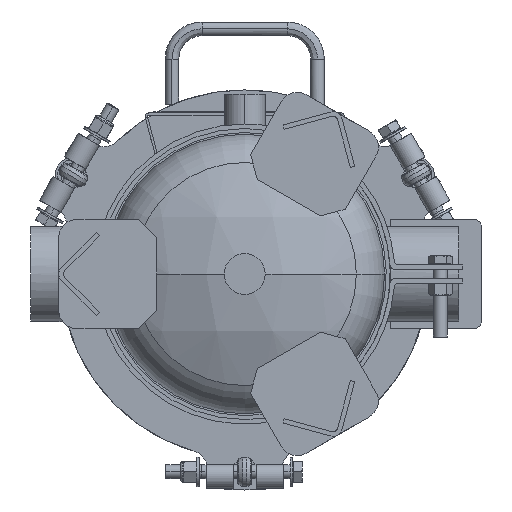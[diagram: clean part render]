
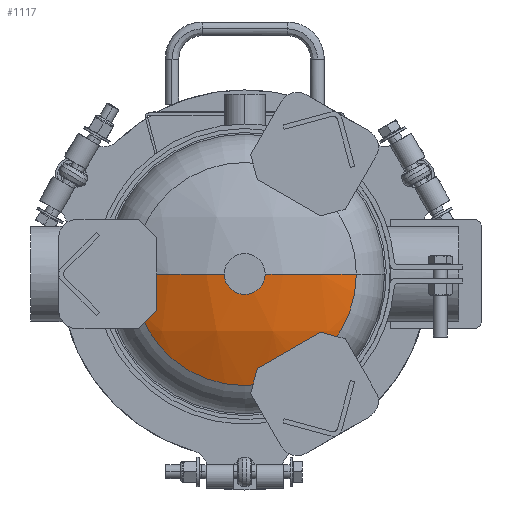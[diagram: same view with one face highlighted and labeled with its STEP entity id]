
A CAD part, front view. The second image highlights one B-rep face of the part: STEP entity #1117.
In plain terms, the highlighted spherical face has radius 174.149 mm.
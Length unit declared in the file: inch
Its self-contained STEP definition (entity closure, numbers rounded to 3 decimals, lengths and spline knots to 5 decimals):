
#575 = VERTEX_POINT ( 'NONE', #3007 ) ;
#775 = AXIS2_PLACEMENT_3D ( 'NONE', #12557, #1579, #18522 ) ;
#977 = AXIS2_PLACEMENT_3D ( 'NONE', #12796, #1813, #19029 ) ;
#1117 = ADVANCED_FACE ( 'NONE', ( #12406 ), #20615, .T. ) ;
#1575 = CARTESIAN_POINT ( 'NONE',  ( 0., -37.5077, 0. ) ) ;
#1579 = DIRECTION ( 'NONE',  ( 0., 0., -1. ) ) ;
#1813 = DIRECTION ( 'NONE',  ( 0., 0., -1. ) ) ;
#1831 = CARTESIAN_POINT ( 'NONE',  ( 3.06649, -37.5077, 0. ) ) ;
#2503 = ORIENTED_EDGE ( 'NONE', *, *, #19244, .T. ) ;
#3007 = CARTESIAN_POINT ( 'NONE',  ( 0., -38.23167, 0. ) ) ;
#5133 = AXIS2_PLACEMENT_3D ( 'NONE', #1575, #27123, #26588 ) ;
#5776 = CARTESIAN_POINT ( 'NONE',  ( -3.06649, -37.5077, 0. ) ) ;
#5984 = VERTEX_POINT ( 'NONE', #5776 ) ;
#6145 = EDGE_LOOP ( 'NONE', ( #24064, #2503, #10466 ) ) ;
#6483 = AXIS2_PLACEMENT_3D ( 'NONE', #12276, #20456, #14217 ) ;
#10466 = ORIENTED_EDGE ( 'NONE', *, *, #27262, .F. ) ;
#12276 = CARTESIAN_POINT ( 'NONE',  ( 0., -31.37541, 0. ) ) ;
#12406 = FACE_OUTER_BOUND ( 'NONE', #6145, .T. ) ;
#12557 = CARTESIAN_POINT ( 'NONE',  ( 0., -31.37541, 0. ) ) ;
#12796 = CARTESIAN_POINT ( 'NONE',  ( 0., -31.37541, 0. ) ) ;
#14217 = DIRECTION ( 'NONE',  ( 1., 0., 0. ) ) ;
#14912 = CIRCLE ( 'NONE', #5133, 3.06649 ) ;
#18522 = DIRECTION ( 'NONE',  ( -1., 0., 0. ) ) ;
#19029 = DIRECTION ( 'NONE',  ( -1., 0., 0. ) ) ;
#19244 = EDGE_CURVE ( 'NONE', #26464, #575, #27160, .T. ) ;
#20456 = DIRECTION ( 'NONE',  ( 0., 0., 1. ) ) ;
#20615 = SPHERICAL_SURFACE ( 'NONE', #775, 6.85626 ) ;
#24064 = ORIENTED_EDGE ( 'NONE', *, *, #27274, .T. ) ;
#25553 = CIRCLE ( 'NONE', #6483, 6.85626 ) ;
#26464 = VERTEX_POINT ( 'NONE', #1831 ) ;
#26588 = DIRECTION ( 'NONE',  ( 1., 0., 0. ) ) ;
#27123 = DIRECTION ( 'NONE',  ( 0., -1., 0. ) ) ;
#27160 = CIRCLE ( 'NONE', #977, 6.85626 ) ;
#27262 = EDGE_CURVE ( 'NONE', #5984, #575, #25553, .T. ) ;
#27274 = EDGE_CURVE ( 'NONE', #5984, #26464, #14912, .T. ) ;
